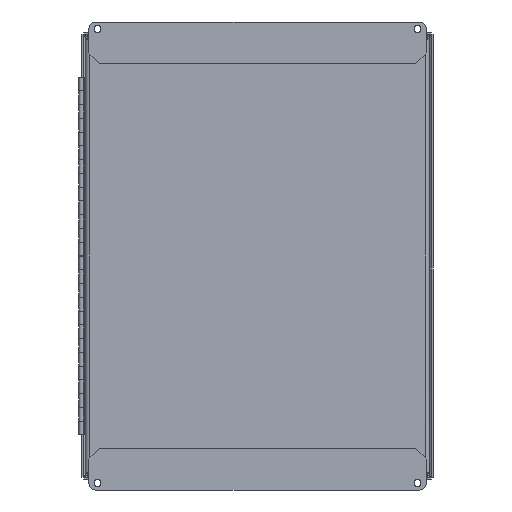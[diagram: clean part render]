
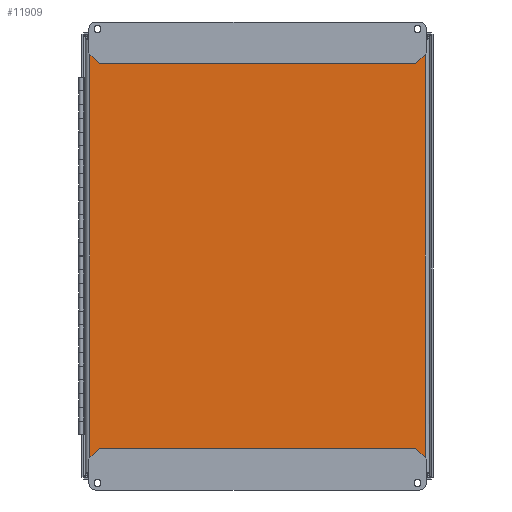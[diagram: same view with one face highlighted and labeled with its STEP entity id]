
A CAD part, front view. The second image highlights one B-rep face of the part: STEP entity #11909.
In plain terms, the highlighted planar face has unit normal (0, -1, 0).
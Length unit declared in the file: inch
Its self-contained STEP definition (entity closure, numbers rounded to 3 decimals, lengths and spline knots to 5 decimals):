
#10994 = EDGE_CURVE ( 'NONE', #11911, #11919, #16136, .T. ) ;
#11904 = ORIENTED_EDGE ( 'NONE', *, *, #11906, .T. ) ;
#11906 = EDGE_CURVE ( 'NONE', #11921, #11907, #16694, .T. ) ;
#11907 = VERTEX_POINT ( 'NONE', #16671 ) ;
#11909 = ADVANCED_FACE ( 'NONE', ( #16664 ), #16656, .F. ) ;
#11911 = VERTEX_POINT ( 'NONE', #16651 ) ;
#11916 = EDGE_CURVE ( 'NONE', #11919, #11921, #16767, .T. ) ;
#11919 = VERTEX_POINT ( 'NONE', #16760 ) ;
#11921 = VERTEX_POINT ( 'NONE', #16758 ) ;
#11922 = EDGE_LOOP ( 'NONE', ( #11926, #11904, #11935, #11939 ) ) ;
#11926 = ORIENTED_EDGE ( 'NONE', *, *, #11916, .T. ) ;
#11935 = ORIENTED_EDGE ( 'NONE', *, *, #11938, .T. ) ;
#11938 = EDGE_CURVE ( 'NONE', #11907, #11911, #16712, .T. ) ;
#11939 = ORIENTED_EDGE ( 'NONE', *, *, #10994, .T. ) ;
#16133 = DIRECTION ( 'NONE',  ( 0., 0., 1. ) ) ;
#16134 = VECTOR ( 'NONE', #16133, 39.37008 ) ;
#16135 = CARTESIAN_POINT ( 'NONE',  ( 6.098, 0., -7.92093 ) ) ;
#16136 = LINE ( 'NONE', #16135, #16134 ) ;
#16647 = DIRECTION ( 'NONE',  ( 0., 0., 1. ) ) ;
#16649 = DIRECTION ( 'NONE',  ( 0., 1., 0. ) ) ;
#16650 = CARTESIAN_POINT ( 'NONE',  ( -6.25, 0., 8. ) ) ;
#16651 = CARTESIAN_POINT ( 'NONE',  ( 6.098, 0., -7.848 ) ) ;
#16655 = AXIS2_PLACEMENT_3D ( 'NONE', #16650, #16649, #16647 ) ;
#16656 = PLANE ( 'NONE',  #16655 ) ;
#16664 = FACE_OUTER_BOUND ( 'NONE', #11922, .T. ) ;
#16671 = CARTESIAN_POINT ( 'NONE',  ( -6.098, 0., -7.848 ) ) ;
#16674 = DIRECTION ( 'NONE',  ( 0., 0., -1. ) ) ;
#16675 = VECTOR ( 'NONE', #16674, 39.37008 ) ;
#16693 = CARTESIAN_POINT ( 'NONE',  ( -6.098, 0., 7.92093 ) ) ;
#16694 = LINE ( 'NONE', #16693, #16675 ) ;
#16712 = LINE ( 'NONE', #16831, #16829 ) ;
#16758 = CARTESIAN_POINT ( 'NONE',  ( -6.098, 0., 7.848 ) ) ;
#16760 = CARTESIAN_POINT ( 'NONE',  ( 6.098, 0., 7.848 ) ) ;
#16762 = DIRECTION ( 'NONE',  ( -1., 0., 0. ) ) ;
#16763 = VECTOR ( 'NONE', #16762, 39.37008 ) ;
#16765 = CARTESIAN_POINT ( 'NONE',  ( 6.17093, 0., 7.848 ) ) ;
#16767 = LINE ( 'NONE', #16765, #16763 ) ;
#16827 = DIRECTION ( 'NONE',  ( 1., 0., 0. ) ) ;
#16829 = VECTOR ( 'NONE', #16827, 39.37008 ) ;
#16831 = CARTESIAN_POINT ( 'NONE',  ( -6.17093, 0., -7.848 ) ) ;
